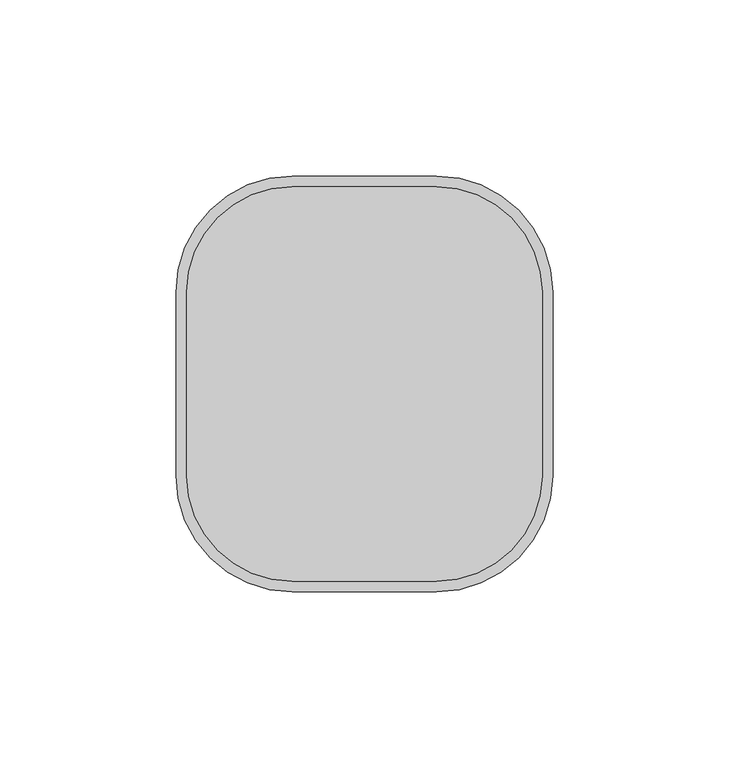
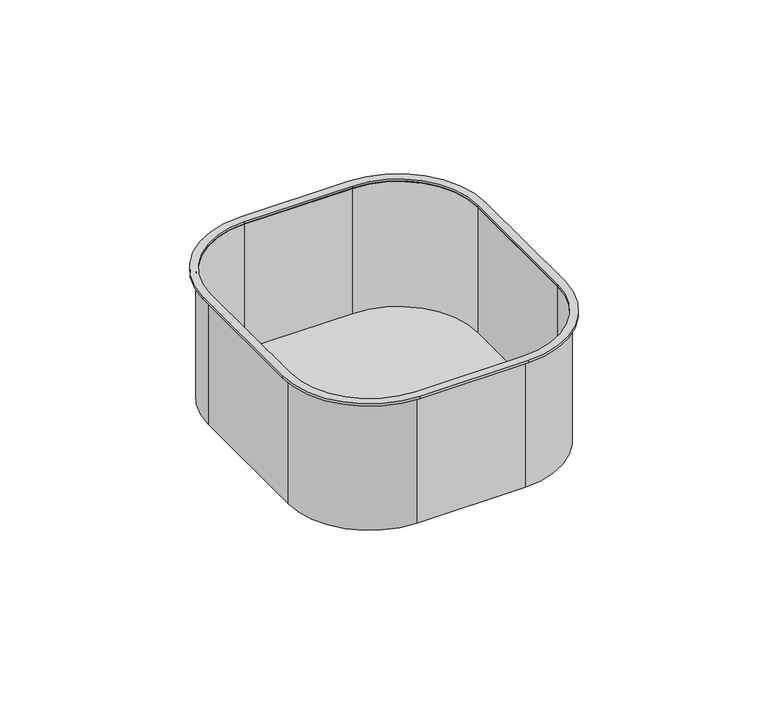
"""IFC4 building model written with IfcOpenShell, lengths in millimetres: proxy geometry, 00-Scatola da cartongesso : Scatola 6 moduli quadrata."""

from ifc_helpers import new_model, si_unit, point, frame, frame_2d, origin, origin_with_axes, place, context, project, spatial, polyline, circle_curve, trimmed, segment, composite_curve, outline, extrude, source, transform, mapped, element, save


def electrical_fixtures_473dbf1e(model_context):
    return source(origin(), model_context, "Body", "SweptSolid", [
        extrude(outline(composite_curve([segment(trimmed(circle_curve(frame_2d((20.5, 26.0)), 30.0), [point((20.5, 56.0))], [point((50.5, 26.0))], False, "CARTESIAN"), True, "CONTINUOUS"), segment(polyline([(50.5, 26.0), (50.5, -26.0)]), True, "CONTINUOUS"), segment(trimmed(circle_curve(frame_2d((20.5, -26.0)), 30.0), [point((50.5, -26.0))], [point((20.5, -56.0))], False, "CARTESIAN"), True, "CONTINUOUS"), segment(polyline([(20.5, -56.0), (-20.5, -56.0)]), True, "CONTINUOUS"), segment(trimmed(circle_curve(frame_2d((-20.5, -26.0)), 30.0), [point((-20.5, -56.0))], [point((-50.5, -26.0))], False, "CARTESIAN"), True, "CONTINUOUS"), segment(polyline([(-50.5, -26.0), (-50.5, 26.0)]), True, "CONTINUOUS"), segment(trimmed(circle_curve(frame_2d((-20.5, 26.0)), 30.0), [point((-50.5, 26.0))], [point((-20.5, 56.0))], False, "CARTESIAN"), True, "CONTINUOUS"), segment(polyline([(-20.5, 56.0), (20.5, 56.0)]), True, "CONTINUOUS")], self_intersect=False)), frame((0.0, 0.0, -51.0), z_axis=(0.0, 0.0, 1.0), x_axis=(1.0, 0.0, 0.0)), (0.0, 0.0, 1.0), 1.0),
        extrude(outline(composite_curve([segment(trimmed(circle_curve(frame_2d((20.5, 26.0)), 31.0), [point((20.5, 57.0))], [point((51.5, 26.0))], False, "CARTESIAN"), True, "CONTINUOUS"), segment(polyline([(51.5, 26.0), (51.5, -26.0)]), True, "CONTINUOUS"), segment(trimmed(circle_curve(frame_2d((20.5, -26.0)), 31.0), [point((51.5, -26.0))], [point((20.5, -57.0))], False, "CARTESIAN"), True, "CONTINUOUS"), segment(polyline([(20.5, -57.0), (-20.5, -57.0)]), True, "CONTINUOUS"), segment(trimmed(circle_curve(frame_2d((-20.5, -26.0)), 31.0), [point((-20.5, -57.0))], [point((-51.5, -26.0))], False, "CARTESIAN"), True, "CONTINUOUS"), segment(polyline([(-51.5, -26.0), (-51.5, 26.0)]), True, "CONTINUOUS"), segment(trimmed(circle_curve(frame_2d((-20.5, 26.0)), 31.0), [point((-51.5, 26.0))], [point((-20.5, 57.0))], False, "CARTESIAN"), True, "CONTINUOUS"), segment(polyline([(-20.5, 57.0), (20.5, 57.0)]), True, "CONTINUOUS")], self_intersect=False), holes=[composite_curve([segment(polyline([(20.5, 56.0), (-20.5, 56.0)]), True, "CONTINUOUS"), segment(trimmed(circle_curve(frame_2d((-20.5, 26.0)), 30.0), [point((-20.5, 56.0))], [point((-50.5, 26.0))], True, "CARTESIAN"), True, "CONTINUOUS"), segment(polyline([(-50.5, 26.0), (-50.5, -26.0)]), True, "CONTINUOUS"), segment(trimmed(circle_curve(frame_2d((-20.5, -26.0)), 30.0), [point((-50.5, -26.0))], [point((-20.5, -56.0))], True, "CARTESIAN"), True, "CONTINUOUS"), segment(polyline([(-20.5, -56.0), (20.5, -56.0)]), True, "CONTINUOUS"), segment(trimmed(circle_curve(frame_2d((20.5, -26.0)), 30.0), [point((20.5, -56.0))], [point((50.5, -26.0))], True, "CARTESIAN"), True, "CONTINUOUS"), segment(polyline([(50.5, -26.0), (50.5, 26.0)]), True, "CONTINUOUS"), segment(trimmed(circle_curve(frame_2d((20.5, 26.0)), 30.0), [point((50.5, 26.0))], [point((20.5, 56.0))], True, "CARTESIAN"), True, "CONTINUOUS")], self_intersect=False)]), frame((0.0, 0.0, -51.0), z_axis=(0.0, 0.0, 1.0), x_axis=(1.0, 0.0, 0.0)), (0.0, 0.0, 1.0), 51.0),
        extrude(outline(composite_curve([segment(trimmed(circle_curve(frame_2d((20.5, 26.0)), 33.0), [point((20.5, 59.0))], [point((53.5, 26.0))], False, "CARTESIAN"), True, "CONTINUOUS"), segment(polyline([(53.5, 26.0), (53.5, -26.0)]), True, "CONTINUOUS"), segment(trimmed(circle_curve(frame_2d((20.5, -26.0)), 33.0), [point((53.5, -26.0))], [point((20.5, -59.0))], False, "CARTESIAN"), True, "CONTINUOUS"), segment(polyline([(20.5, -59.0), (-20.5, -59.0)]), True, "CONTINUOUS"), segment(trimmed(circle_curve(frame_2d((-20.5, -26.0)), 33.0), [point((-20.5, -59.0))], [point((-53.5, -26.0))], False, "CARTESIAN"), True, "CONTINUOUS"), segment(polyline([(-53.5, -26.0), (-53.5, 26.0)]), True, "CONTINUOUS"), segment(trimmed(circle_curve(frame_2d((-20.5, 26.0)), 33.0), [point((-53.5, 26.0))], [point((-20.5, 59.0))], False, "CARTESIAN"), True, "CONTINUOUS"), segment(polyline([(-20.5, 59.0), (20.5, 59.0)]), True, "CONTINUOUS")], self_intersect=False), holes=[composite_curve([segment(polyline([(20.5, 56.0), (-20.5, 56.0)]), True, "CONTINUOUS"), segment(trimmed(circle_curve(frame_2d((-20.5, 26.0)), 30.0), [point((-20.5, 56.0))], [point((-50.5, 26.0))], True, "CARTESIAN"), True, "CONTINUOUS"), segment(polyline([(-50.5, 26.0), (-50.5, -26.0)]), True, "CONTINUOUS"), segment(trimmed(circle_curve(frame_2d((-20.5, -26.0)), 30.0), [point((-50.5, -26.0))], [point((-20.5, -56.0))], True, "CARTESIAN"), True, "CONTINUOUS"), segment(polyline([(-20.5, -56.0), (20.5, -56.0)]), True, "CONTINUOUS"), segment(trimmed(circle_curve(frame_2d((20.5, -26.0)), 30.0), [point((20.5, -56.0))], [point((50.5, -26.0))], True, "CARTESIAN"), True, "CONTINUOUS"), segment(polyline([(50.5, -26.0), (50.5, 26.0)]), True, "CONTINUOUS"), segment(trimmed(circle_curve(frame_2d((20.5, 26.0)), 30.0), [point((50.5, 26.0))], [point((20.5, 56.0))], True, "CARTESIAN"), True, "CONTINUOUS")], self_intersect=False)]), origin_with_axes(), (0.0, 0.0, 1.0), 1.0),
    ])


if __name__ == "__main__":
    model = new_model("IFC4")
    model_context = context("Model", 3, world=origin())
    ifc_project = project(units=[si_unit("LENGTHUNIT", "METRE", prefix="MILLI")], contexts=[model_context])
    site = spatial("IfcSite", under=ifc_project)
    building = spatial("IfcBuilding", under=site)
    placement = place(None, origin())
    electrical_fixtures_shape = electrical_fixtures_473dbf1e(model_context)
    element("IfcBuildingElementProxy", 1, Name="00-Scatola da cartongesso : Scatola 6 moduli quadrata", ObjectType="00-Scatola da cartongesso : Scatola 6 moduli quadrata", at=placement, inside=building, context=model_context, shape_type="MappedRepresentation", body=[
        mapped(electrical_fixtures_shape, transform((0.0, 0.0, 0.0), x_axis=(1.0, 0.0, 0.0), y_axis=(0.0, 1.0, 0.0), z_axis=(0.0, 0.0, 1.0))),
    ])
    save(model, "model.ifc")
